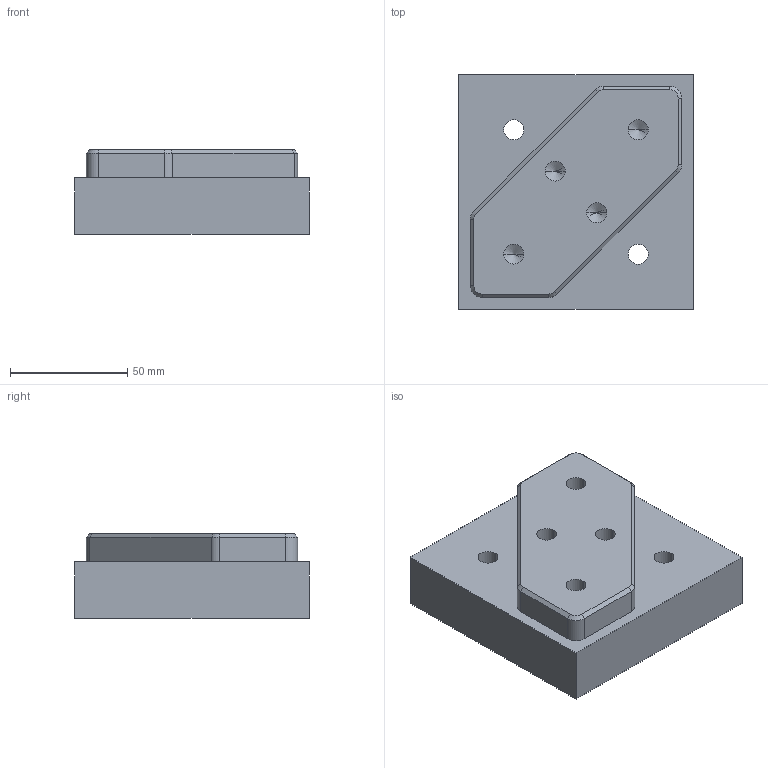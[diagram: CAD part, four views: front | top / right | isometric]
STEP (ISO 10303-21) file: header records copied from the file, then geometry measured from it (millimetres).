
FILE_DESCRIPTION (( 'STEP AP214' ), '1' );
FILE_NAME ('MCAM_MILL_1.STEP', '2014-12-01T18:23:02', ( '' ), ( '' ), 'SwSTEP 2.0', 'SolidWorks 2015', '' );
FILE_SCHEMA (( 'AUTOMOTIVE_DESIGN' ));
Length unit declared in the file: millimetre
Products named in the file (1): MCAM_MILL_1
Bounding box: 100 x 100 x 36 mm (x, y, z)
Volume: 293432.7 mm3; surface area: 36060.3 mm2
Topology: 1 solids, 1 shells, 51 faces, 124 edges, 72 vertices
Faces by surface type: plane 19, cylinder 18, cone 14
Entity records: 1598 total; most frequent: DIRECTION 262, CARTESIAN_POINT 240, ORIENTED_EDGE 232, EDGE_CURVE 116, AXIS2_PLACEMENT_3D 94, VECTOR 74, LINE 74, VERTEX_POINT 72
